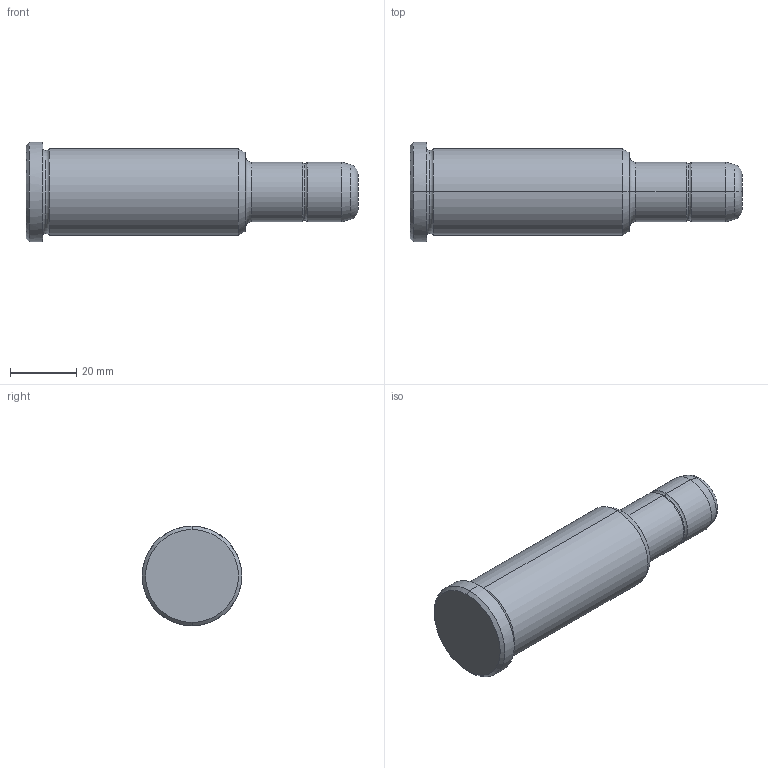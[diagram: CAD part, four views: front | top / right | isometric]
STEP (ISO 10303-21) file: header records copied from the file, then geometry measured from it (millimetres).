
FILE_DESCRIPTION(('CATIA V5 STEP Exchange'),'2;1');
FILE_NAME('C:\Users\Utente\Desktop\IO LAVORO\3D X SITO CF\X SITO\PLASTICA\351\351-18X66X100.stp','2021-08-27T11:23:21+00:00',('none'),('none'),'CATIA Version 5 Release 20 GA (IN-10)','CATIA V5 STEP AP203','none');
FILE_SCHEMA(('CONFIG_CONTROL_DESIGN'));
Length unit declared in the file: millimetre
Products named in the file (1): 351-18X66X100
Bounding box: 100 x 30 x 30 mm (x, y, z)
Volume: 44172.1 mm3; surface area: 8538.8 mm2
Topology: 1 solids, 1 shells, 30 faces, 86 edges, 60 vertices
Faces by surface type: torus 12, cylinder 8, cone 6, plane 4
Entity records: 1112 total; most frequent: CARTESIAN_POINT 289, ORIENTED_EDGE 172, DIRECTION 138, AXIS2_PLACEMENT_3D 95, EDGE_CURVE 86, CIRCLE 64, VERTEX_POINT 60, EDGE_LOOP 32
